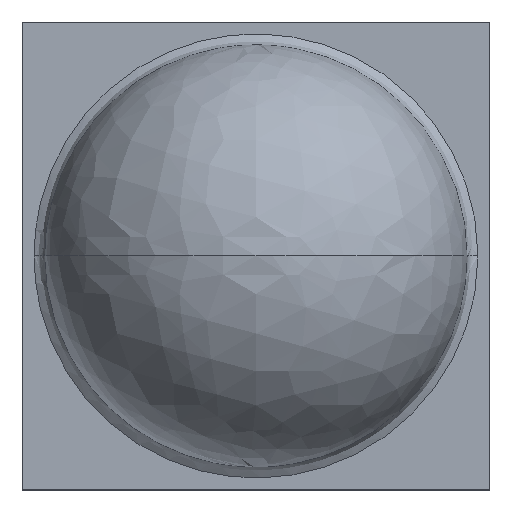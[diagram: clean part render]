
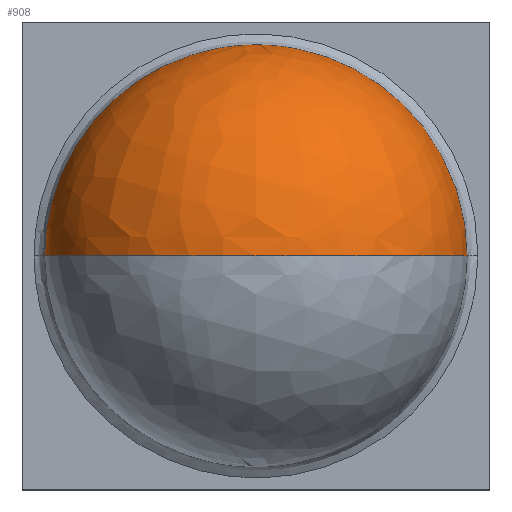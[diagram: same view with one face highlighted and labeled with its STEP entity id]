
A CAD part, top view. The second image highlights one B-rep face of the part: STEP entity #908.
In plain terms, the highlighted free-form (B-spline) face has degree [2, 2] with [9, 5] control points.
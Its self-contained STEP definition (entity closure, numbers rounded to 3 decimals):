
#908=ADVANCED_FACE('',(#1576),#9937,.T.);
#1576=FACE_OUTER_BOUND('',#2250,.T.);
#2250=EDGE_LOOP('',(#3848,#3849,#3850));
#3848=ORIENTED_EDGE('',*,*,#6181,.F.);
#3849=ORIENTED_EDGE('',*,*,#6180,.F.);
#3850=ORIENTED_EDGE('',*,*,#6183,.T.);
#6180=EDGE_CURVE('',#8881,#8882,#8106,.T.);
#6181=EDGE_CURVE('',#8882,#8883,#8107,.T.);
#6183=EDGE_CURVE('',#8881,#8883,#8109,.T.);
#8106=(
BOUNDED_CURVE()
B_SPLINE_CURVE(2,(#22409,#22410,#22411),.UNSPECIFIED.,.F.,.F.)
B_SPLINE_CURVE_WITH_KNOTS((3,3),(0.,4.247),.UNSPECIFIED.)
CURVE()
GEOMETRIC_REPRESENTATION_ITEM()
RATIONAL_B_SPLINE_CURVE((1.,0.729,1.))
REPRESENTATION_ITEM('')
);
#8107=(
BOUNDED_CURVE()
B_SPLINE_CURVE(2,(#22412,#22413,#22414),.UNSPECIFIED.,.F.,.F.)
B_SPLINE_CURVE_WITH_KNOTS((3,3),(0.,4.247),.UNSPECIFIED.)
CURVE()
GEOMETRIC_REPRESENTATION_ITEM()
RATIONAL_B_SPLINE_CURVE((1.,0.729,1.))
REPRESENTATION_ITEM('')
);
#8109=(
BOUNDED_CURVE()
B_SPLINE_CURVE(2,(#22418,#22419,#22420,#22421,#22422),.UNSPECIFIED.,.F.,
 .F.)
B_SPLINE_CURVE_WITH_KNOTS((3,2,3),(-9.023,-4.511,
0.),.UNSPECIFIED.)
CURVE()
GEOMETRIC_REPRESENTATION_ITEM()
RATIONAL_B_SPLINE_CURVE((1.,0.707,1.,0.707,1.))
REPRESENTATION_ITEM('')
);
#8881=VERTEX_POINT('',#22396);
#8882=VERTEX_POINT('',#22397);
#8883=VERTEX_POINT('',#22398);
#9937=(
BOUNDED_SURFACE()
B_SPLINE_SURFACE(2,2,((#22345,#22346,#22347,#22348,#22349),(#22350,#22351,
#22352,#22353,#22354),(#22355,#22356,#22357,#22358,#22359),(#22360,#22361,
#22362,#22363,#22364),(#22365,#22366,#22367,#22368,#22369),(#22370,#22371,
#22372,#22373,#22374),(#22375,#22376,#22377,#22378,#22379),(#22380,#22381,
#22382,#22383,#22384),(#22385,#22386,#22387,#22388,#22389)),
 .UNSPECIFIED.,.T.,.F.,.F.)
B_SPLINE_SURFACE_WITH_KNOTS((3,2,2,2,3),(3,2,3),(0.,1.571,3.142,
4.712,6.283),(-1.571,0.,1.571),
 .UNSPECIFIED.)
GEOMETRIC_REPRESENTATION_ITEM()
RATIONAL_B_SPLINE_SURFACE(((1.,0.707,1.,0.707,1.),
(0.707,0.5,0.707,0.5,0.707),(1.,0.707,
1.,0.707,1.),(0.707,0.5,0.707,0.5,0.707),
(1.,0.707,1.,0.707,1.),(0.707,0.5,0.707,
0.5,0.707),(1.,0.707,1.,0.707,1.),(0.707,
0.5,0.707,0.5,0.707),(1.,0.707,1.,0.707,
1.)))
REPRESENTATION_ITEM('')
SURFACE()
);
#22345=CARTESIAN_POINT('',(0.,2.26,-0.07));
#22346=CARTESIAN_POINT('',(2.26,2.26,-0.07));
#22347=CARTESIAN_POINT('',(2.26,0.,-0.07));
#22348=CARTESIAN_POINT('',(2.26,-2.26,-0.07));
#22349=CARTESIAN_POINT('',(0.,-2.26,-0.07));
#22350=CARTESIAN_POINT('',(0.,2.26,-0.07));
#22351=CARTESIAN_POINT('',(2.26,2.26,2.19));
#22352=CARTESIAN_POINT('',(2.26,0.,2.19));
#22353=CARTESIAN_POINT('',(2.26,-2.26,2.19));
#22354=CARTESIAN_POINT('',(0.,-2.26,-0.07));
#22355=CARTESIAN_POINT('',(0.,2.26,-0.07));
#22356=CARTESIAN_POINT('',(0.,2.26,2.19));
#22357=CARTESIAN_POINT('',(0.,0.,2.19));
#22358=CARTESIAN_POINT('',(0.,-2.26,2.19));
#22359=CARTESIAN_POINT('',(0.,-2.26,-0.07));
#22360=CARTESIAN_POINT('',(0.,2.26,-0.07));
#22361=CARTESIAN_POINT('',(-2.26,2.26,2.19));
#22362=CARTESIAN_POINT('',(-2.26,0.,2.19));
#22363=CARTESIAN_POINT('',(-2.26,-2.26,2.19));
#22364=CARTESIAN_POINT('',(0.,-2.26,-0.07));
#22365=CARTESIAN_POINT('',(0.,2.26,-0.07));
#22366=CARTESIAN_POINT('',(-2.26,2.26,-0.07));
#22367=CARTESIAN_POINT('',(-2.26,0.,-0.07));
#22368=CARTESIAN_POINT('',(-2.26,-2.26,-0.07));
#22369=CARTESIAN_POINT('',(0.,-2.26,-0.07));
#22370=CARTESIAN_POINT('',(0.,2.26,-0.07));
#22371=CARTESIAN_POINT('',(-2.26,2.26,-2.33));
#22372=CARTESIAN_POINT('',(-2.26,0.,-2.33));
#22373=CARTESIAN_POINT('',(-2.26,-2.26,-2.33));
#22374=CARTESIAN_POINT('',(0.,-2.26,-0.07));
#22375=CARTESIAN_POINT('',(0.,2.26,-0.07));
#22376=CARTESIAN_POINT('',(0.,2.26,-2.33));
#22377=CARTESIAN_POINT('',(0.,0.,-2.33));
#22378=CARTESIAN_POINT('',(0.,-2.26,-2.33));
#22379=CARTESIAN_POINT('',(0.,-2.26,-0.07));
#22380=CARTESIAN_POINT('',(0.,2.26,-0.07));
#22381=CARTESIAN_POINT('',(2.26,2.26,-2.33));
#22382=CARTESIAN_POINT('',(2.26,0.,-2.33));
#22383=CARTESIAN_POINT('',(2.26,-2.26,-2.33));
#22384=CARTESIAN_POINT('',(0.,-2.26,-0.07));
#22385=CARTESIAN_POINT('',(0.,2.26,-0.07));
#22386=CARTESIAN_POINT('',(2.26,2.26,-0.07));
#22387=CARTESIAN_POINT('',(2.26,0.,-0.07));
#22388=CARTESIAN_POINT('',(2.26,-2.26,-0.07));
#22389=CARTESIAN_POINT('',(0.,-2.26,-0.07));
#22396=CARTESIAN_POINT('',(2.256,0.,0.07));
#22397=CARTESIAN_POINT('',(0.,0.,2.19));
#22398=CARTESIAN_POINT('',(-2.256,0.,0.07));
#22409=CARTESIAN_POINT('',(2.256,0.,0.07));
#22410=CARTESIAN_POINT('',(2.124,0.,2.19));
#22411=CARTESIAN_POINT('',(0.,0.,2.19));
#22412=CARTESIAN_POINT('',(0.,0.,2.19));
#22413=CARTESIAN_POINT('',(-2.124,0.,2.19));
#22414=CARTESIAN_POINT('',(-2.256,0.,0.07));
#22418=CARTESIAN_POINT('',(2.256,0.,0.07));
#22419=CARTESIAN_POINT('',(2.256,2.256,0.07));
#22420=CARTESIAN_POINT('',(0.,2.256,0.07));
#22421=CARTESIAN_POINT('',(-2.256,2.256,0.07));
#22422=CARTESIAN_POINT('',(-2.256,0.,0.07));
